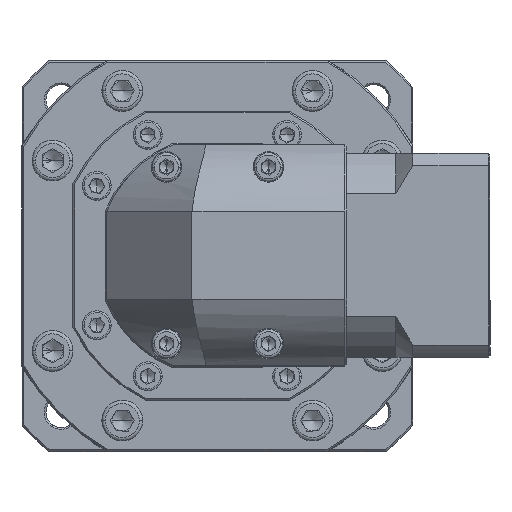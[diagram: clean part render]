
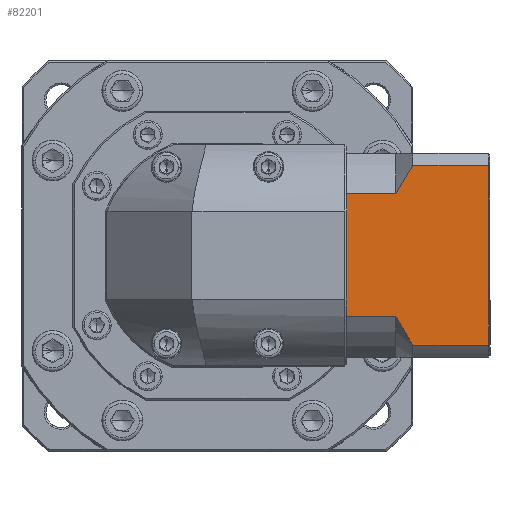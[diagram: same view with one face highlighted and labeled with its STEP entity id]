
A CAD part, top view. The second image highlights one B-rep face of the part: STEP entity #82201.
In plain terms, the highlighted planar face has unit normal (0, 0, 1).
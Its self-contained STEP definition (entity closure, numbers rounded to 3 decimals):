
#1067 = VECTOR ( 'NONE', #81704, 1000. ) ;
#3891 = CARTESIAN_POINT ( 'NONE',  ( -90.267, 97.983, 144.207 ) ) ;
#3997 = LINE ( 'NONE', #121300, #91694 ) ;
#5897 = CARTESIAN_POINT ( 'NONE',  ( -114.242, 47.811, 144.207 ) ) ;
#6440 = LINE ( 'NONE', #82187, #1067 ) ;
#8419 = CARTESIAN_POINT ( 'NONE',  ( -114.24, 95.245, 144.207 ) ) ;
#9407 = CARTESIAN_POINT ( 'NONE',  ( -115.915, 92.437, 144.207 ) ) ;
#11447 = CARTESIAN_POINT ( 'NONE',  ( -131.967, 88.562, 144.207 ) ) ;
#12317 = VERTEX_POINT ( 'NONE', #41101 ) ;
#15030 = CARTESIAN_POINT ( 'NONE',  ( -112.467, 97.983, 144.207 ) ) ;
#27897 = ORIENTED_EDGE ( 'NONE', *, *, #137337, .T. ) ;
#28849 = VERTEX_POINT ( 'NONE', #117194 ) ;
#28927 = PLANE ( 'NONE',  #107867 ) ;
#28970 = CARTESIAN_POINT ( 'NONE',  ( -113.368, 46.431, 144.207 ) ) ;
#29395 = LINE ( 'NONE', #140762, #145412 ) ;
#33515 = VERTEX_POINT ( 'NONE', #3891 ) ;
#34490 = EDGE_CURVE ( 'NONE', #39030, #45800, #40721, .T. ) ;
#36233 = VERTEX_POINT ( 'NONE', #97784 ) ;
#36434 = CARTESIAN_POINT ( 'NONE',  ( -117.467, 89.553, 144.207 ) ) ;
#39030 = VERTEX_POINT ( 'NONE', #53058 ) ;
#39750 = CARTESIAN_POINT ( 'NONE',  ( -112.467, 45.068, 144.207 ) ) ;
#40640 = CARTESIAN_POINT ( 'NONE',  ( -117.467, 89.553, 144.207 ) ) ;
#40721 = LINE ( 'NONE', #36434, #117977 ) ;
#41101 = CARTESIAN_POINT ( 'NONE',  ( -117.467, 53.498, 144.207 ) ) ;
#41599 = VERTEX_POINT ( 'NONE', #141370 ) ;
#44702 = VECTOR ( 'NONE', #129865, 1000. ) ;
#45800 = VERTEX_POINT ( 'NONE', #40640 ) ;
#47075 = DIRECTION ( 'NONE',  ( 1., 0., 0. ) ) ;
#47291 = ORIENTED_EDGE ( 'NONE', *, *, #34490, .F. ) ;
#48009 = EDGE_LOOP ( 'NONE', ( #53500, #107605, #98204, #56813, #47291, #122048, #52119, #139574, #112303, #27897 ) ) ;
#48833 = VERTEX_POINT ( 'NONE', #67652 ) ;
#52119 = ORIENTED_EDGE ( 'NONE', *, *, #100505, .T. ) ;
#53058 = CARTESIAN_POINT ( 'NONE',  ( -131.967, 89.553, 144.207 ) ) ;
#53500 = ORIENTED_EDGE ( 'NONE', *, *, #68478, .F. ) ;
#56813 = ORIENTED_EDGE ( 'NONE', *, *, #142170, .T. ) ;
#60886 = EDGE_CURVE ( 'NONE', #28849, #33515, #29395, .T. ) ;
#61745 = DIRECTION ( 'NONE',  ( 1., 0., 0. ) ) ;
#62773 = CARTESIAN_POINT ( 'NONE',  ( -115.916, 50.616, 144.207 ) ) ;
#63506 = FACE_OUTER_BOUND ( 'NONE', #48009, .T. ) ;
#64231 = VERTEX_POINT ( 'NONE', #11447 ) ;
#65798 = CARTESIAN_POINT ( 'NONE',  ( -112.467, 97.983, 144.207 ) ) ;
#67652 = CARTESIAN_POINT ( 'NONE',  ( -112.467, 45.068, 144.207 ) ) ;
#68478 = EDGE_CURVE ( 'NONE', #28849, #48833, #6440, .T. ) ;
#72684 = B_SPLINE_CURVE_WITH_KNOTS ( 'NONE', 3,
 ( #116794, #130044, #62773, #5897, #28970, #39750 ),
 .UNSPECIFIED., .F., .F.,
 ( 4, 2, 4 ),
 ( 0.1, 0.104, 0.109 ),
 .UNSPECIFIED. ) ;
#73521 = CARTESIAN_POINT ( 'NONE',  ( -89.767, 101.526, 144.207 ) ) ;
#78438 = LINE ( 'NONE', #80902, #101273 ) ;
#79670 = DIRECTION ( 'NONE',  ( -1., 0., 0. ) ) ;
#80815 = CARTESIAN_POINT ( 'NONE',  ( -131.967, 101.526, 144.207 ) ) ;
#80902 = CARTESIAN_POINT ( 'NONE',  ( -117.467, 97.983, 144.207 ) ) ;
#80960 = VERTEX_POINT ( 'NONE', #15030 ) ;
#81704 = DIRECTION ( 'NONE',  ( -1., 0., 0. ) ) ;
#82187 = CARTESIAN_POINT ( 'NONE',  ( -117.467, 45.068, 144.207 ) ) ;
#82201 = ADVANCED_FACE ( 'NONE', ( #63506 ), #28927, .F. ) ;
#83381 = DIRECTION ( 'NONE',  ( 0., 0., -1. ) ) ;
#91694 = VECTOR ( 'NONE', #79670, 1000. ) ;
#95243 = EDGE_CURVE ( 'NONE', #80960, #33515, #78438, .T. ) ;
#95539 = DIRECTION ( 'NONE',  ( 0., -1., 0. ) ) ;
#96438 = DIRECTION ( 'NONE',  ( 0., 1., 0. ) ) ;
#97784 = CARTESIAN_POINT ( 'NONE',  ( -131.967, 54.489, 144.207 ) ) ;
#98204 = ORIENTED_EDGE ( 'NONE', *, *, #95243, .F. ) ;
#98327 = VECTOR ( 'NONE', #95539, 1000. ) ;
#100505 = EDGE_CURVE ( 'NONE', #64231, #36233, #127160, .T. ) ;
#101273 = VECTOR ( 'NONE', #47075, 1000. ) ;
#102986 = EDGE_CURVE ( 'NONE', #36233, #41599, #128203, .T. ) ;
#107605 = ORIENTED_EDGE ( 'NONE', *, *, #60886, .T. ) ;
#107867 = AXIS2_PLACEMENT_3D ( 'NONE', #73521, #83381, #61745 ) ;
#108395 = EDGE_CURVE ( 'NONE', #39030, #64231, #137150, .T. ) ;
#110660 = CARTESIAN_POINT ( 'NONE',  ( -131.967, 101.526, 144.207 ) ) ;
#112303 = ORIENTED_EDGE ( 'NONE', *, *, #139880, .F. ) ;
#116794 = CARTESIAN_POINT ( 'NONE',  ( -117.467, 53.498, 144.207 ) ) ;
#117194 = CARTESIAN_POINT ( 'NONE',  ( -90.267, 45.068, 144.207 ) ) ;
#117977 = VECTOR ( 'NONE', #138540, 1000. ) ;
#118121 = CARTESIAN_POINT ( 'NONE',  ( -131.967, 101.526, 144.207 ) ) ;
#120249 = CARTESIAN_POINT ( 'NONE',  ( -117.467, 89.553, 144.207 ) ) ;
#121207 = CARTESIAN_POINT ( 'NONE',  ( -116.719, 91.005, 144.207 ) ) ;
#121300 = CARTESIAN_POINT ( 'NONE',  ( -117.467, 53.498, 144.207 ) ) ;
#121716 = CARTESIAN_POINT ( 'NONE',  ( -113.366, 96.623, 144.207 ) ) ;
#122048 = ORIENTED_EDGE ( 'NONE', *, *, #108395, .T. ) ;
#122885 = DIRECTION ( 'NONE',  ( 0., -1., 0. ) ) ;
#127160 = LINE ( 'NONE', #80815, #44702 ) ;
#128203 = LINE ( 'NONE', #118121, #98327 ) ;
#128354 = VECTOR ( 'NONE', #122885, 1000. ) ;
#129865 = DIRECTION ( 'NONE',  ( 0., -1., 0. ) ) ;
#130044 = CARTESIAN_POINT ( 'NONE',  ( -116.717, 52.041, 144.207 ) ) ;
#137150 = LINE ( 'NONE', #110660, #128354 ) ;
#137337 = EDGE_CURVE ( 'NONE', #12317, #48833, #72684, .T. ) ;
#138540 = DIRECTION ( 'NONE',  ( 1., 0., 0. ) ) ;
#139574 = ORIENTED_EDGE ( 'NONE', *, *, #102986, .T. ) ;
#139880 = EDGE_CURVE ( 'NONE', #12317, #41599, #3997, .T. ) ;
#140275 = B_SPLINE_CURVE_WITH_KNOTS ( 'NONE', 3,
 ( #65798, #121716, #8419, #9407, #121207, #120249 ),
 .UNSPECIFIED., .F., .F.,
 ( 4, 2, 4 ),
 ( 0.052, 0.057, 0.062 ),
 .UNSPECIFIED. ) ;
#140762 = CARTESIAN_POINT ( 'NONE',  ( -90.267, 101.526, 144.207 ) ) ;
#141370 = CARTESIAN_POINT ( 'NONE',  ( -131.967, 53.498, 144.207 ) ) ;
#142170 = EDGE_CURVE ( 'NONE', #80960, #45800, #140275, .T. ) ;
#145412 = VECTOR ( 'NONE', #96438, 1000. ) ;
